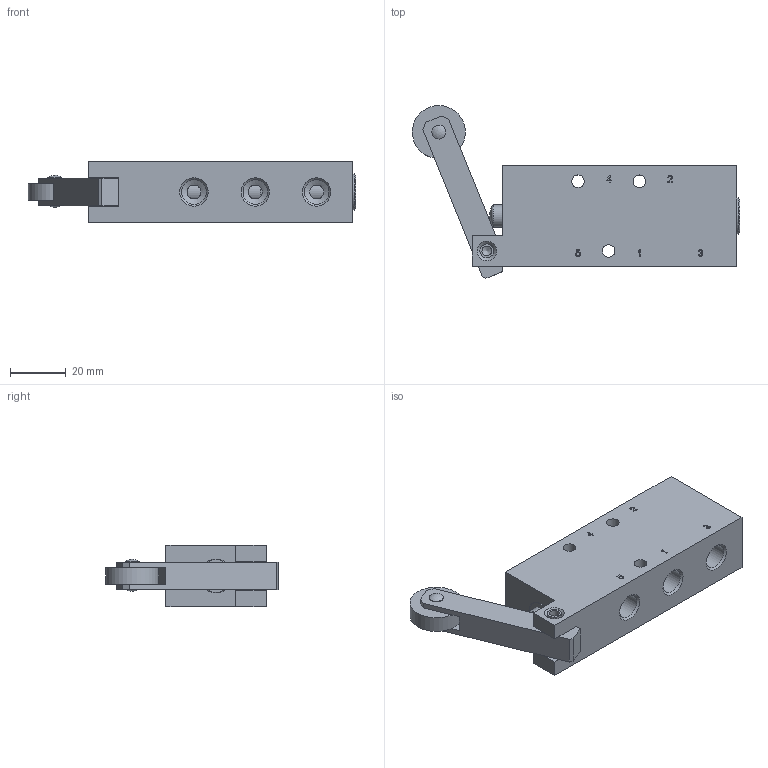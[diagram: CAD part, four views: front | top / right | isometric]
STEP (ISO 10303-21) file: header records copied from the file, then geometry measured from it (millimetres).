
FILE_DESCRIPTION( ( 'Unknown' ), '1' );
FILE_NAME( 'Q:/Solid Edge ST4/weblap modellek/stp/második adag/BR 511 501.stp', 'Unknown', ( 'Unknown' ), ( 'Unknown' ), 'PSStep 14.0', 'Unknown', ' ' );
FILE_SCHEMA( ( 'AUTOMOTIVE_DESIGN { 1 0 10303 214 1 1 1 1 }' ) );
Length unit declared in the file: millimetre
Products named in the file (9): Assem1; -oa0
Assembly tree (8 placements, depth 2):
  Assem1
    -oa0
    -oa0
    -oa0
    -oa0
    -oa0
    -oa0
    -oa0
    -oa0
Bounding box: 117.43 x 61.99 x 22 mm (x, y, z)
Volume: 559.6 mm3; surface area: 23321.9 mm2
Topology: 2 solids, 141 shells, 149 faces, 733 edges, 684 vertices
Faces by surface type: plane 78, cylinder 29, extrusion 20, cone 18, sphere 3, torus 1
Full cylindrical faces by diameter (mm): 1.6 x1, 3.5 x2, 4.5 x5, 4.998 x1, 5 x2, 8 x3, 8.06 x1, 8.8 x10, 9 x1, 12 x1, 13 x1, 19 x1
Entity records: 9392 total; most frequent: CARTESIAN_POINT 3405, DIRECTION 996, ORIENTED_EDGE 663, VERTEX_POINT 657, EDGE_CURVE 655, VECTOR 460, LINE 440, AXIS2_PLACEMENT_3D 268
